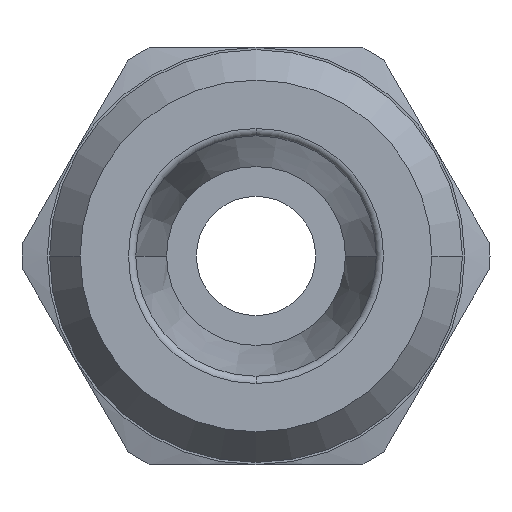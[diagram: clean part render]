
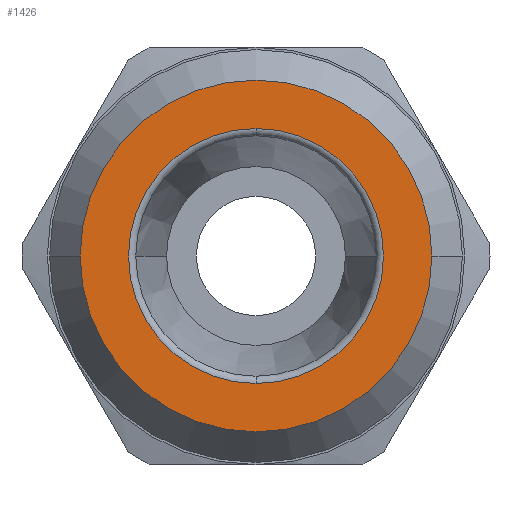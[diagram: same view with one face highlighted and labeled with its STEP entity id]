
A CAD part, left-side view. The second image highlights one B-rep face of the part: STEP entity #1426.
In plain terms, the highlighted planar face has unit normal (-1, 0, 0) as drawn and (0, 0, 1) by its records, which use the part's own axes.
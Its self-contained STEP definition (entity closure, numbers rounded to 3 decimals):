
#901=CARTESIAN_POINT('',(0.,-5.9,15.));
#902=VERTEX_POINT('',#901);
#909=CARTESIAN_POINT('',(0.,5.9,15.));
#910=VERTEX_POINT('',#909);
#911=CARTESIAN_POINT('',(0.,0.,15.));
#912=DIRECTION('',(0.0,0.0,-1.0));
#913=DIRECTION('',(0.0,-1.0,0.0));
#914=AXIS2_PLACEMENT_3D('',#911,#912,#913);
#915=CIRCLE('',#914,5.9);
#916=EDGE_CURVE('',#902,#910,#915,.T.);
#974=CARTESIAN_POINT('',(4.277,0.,15.));
#975=VERTEX_POINT('',#974);
#993=CARTESIAN_POINT('',(-4.277,0.,15.));
#994=VERTEX_POINT('',#993);
#1002=CARTESIAN_POINT('',(0.,-4.277,15.));
#1003=VERTEX_POINT('',#1002);
#1004=CARTESIAN_POINT('',(0.,0.,15.));
#1005=DIRECTION('',(0.0,0.0,1.0));
#1006=DIRECTION('',(0.0,1.0,0.0));
#1007=AXIS2_PLACEMENT_3D('',#1004,#1005,#1006);
#1008=CIRCLE('',#1007,4.277);
#1009=EDGE_CURVE('',#994,#1003,#1008,.T.);
#1011=CARTESIAN_POINT('',(0.,0.,15.));
#1012=DIRECTION('',(0.0,0.0,1.0));
#1013=DIRECTION('',(0.0,1.0,0.0));
#1014=AXIS2_PLACEMENT_3D('',#1011,#1012,#1013);
#1015=CIRCLE('',#1014,4.277);
#1016=EDGE_CURVE('',#1003,#975,#1015,.T.);
#1387=CARTESIAN_POINT('',(0.,0.,15.));
#1388=DIRECTION('',(0.0,0.0,1.0));
#1389=DIRECTION('',(0.0,1.0,0.0));
#1390=AXIS2_PLACEMENT_3D('',#1387,#1388,#1389);
#1391=CIRCLE('',#1390,4.277);
#1392=EDGE_CURVE('',#975,#994,#1391,.T.);
#1406=CARTESIAN_POINT('',(0.,-4.988,15.0));
#1407=DIRECTION('',(0.0,0.0,1.0));
#1408=DIRECTION('',(-1.0,0.0,0.0));
#1409=AXIS2_PLACEMENT_3D('',#1406,#1407,#1408);
#1410=PLANE('',#1409);
#1411=ORIENTED_EDGE('',*,*,#916,.F.);
#1412=CARTESIAN_POINT('',(0.,0.,15.));
#1413=DIRECTION('',(0.0,0.0,-1.0));
#1414=DIRECTION('',(0.0,-1.0,0.0));
#1415=AXIS2_PLACEMENT_3D('',#1412,#1413,#1414);
#1416=CIRCLE('',#1415,5.9);
#1417=EDGE_CURVE('',#910,#902,#1416,.T.);
#1418=ORIENTED_EDGE('',*,*,#1417,.F.);
#1419=EDGE_LOOP('',(#1411,#1418));
#1420=FACE_OUTER_BOUND('',#1419,.T.);
#1421=ORIENTED_EDGE('',*,*,#1016,.F.);
#1422=ORIENTED_EDGE('',*,*,#1009,.F.);
#1423=ORIENTED_EDGE('',*,*,#1392,.F.);
#1424=EDGE_LOOP('',(#1421,#1422,#1423));
#1425=FACE_BOUND('',#1424,.T.);
#1426=ADVANCED_FACE('',(#1420,#1425),#1410,.T.);
